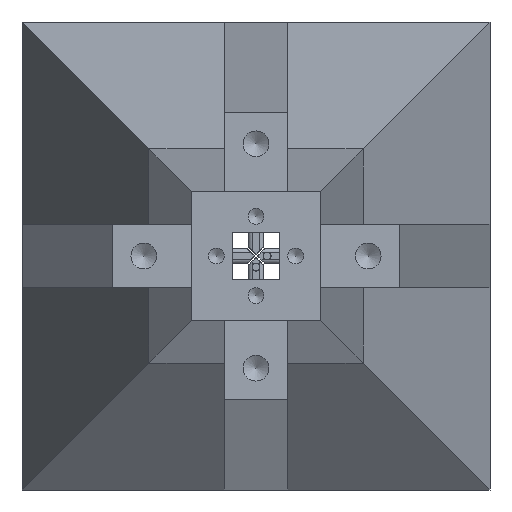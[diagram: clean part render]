
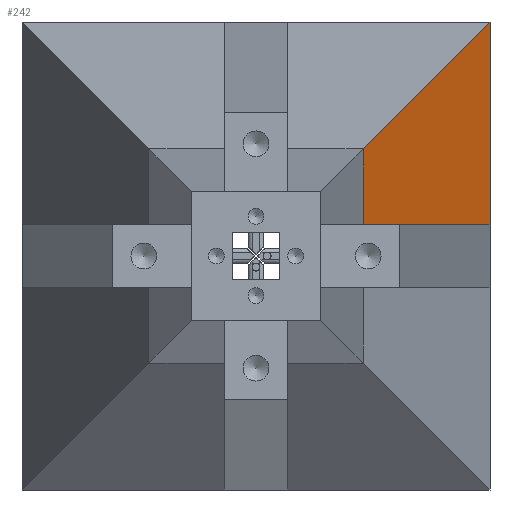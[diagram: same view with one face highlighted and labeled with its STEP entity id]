
A CAD part, left-side view. The second image highlights one B-rep face of the part: STEP entity #242.
In plain terms, the highlighted planar face has unit normal (-0.383, -0.924, 0).
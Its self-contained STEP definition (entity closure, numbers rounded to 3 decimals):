
#242=ADVANCED_FACE('',(#1664),#1666,.T.);
#1664=FACE_BOUND('',#1665,.T.);
#1665=EDGE_LOOP('',(#8910,#8911,#8912,#8913));
#1666=PLANE('',#1667);
#1667=AXIS2_PLACEMENT_3D('',#1668,#1669,#1670);
#1668=CARTESIAN_POINT('',(98.3,-21.5,0.));
#1669=DIRECTION('',(-0.383,-0.924,0.));
#1670=DIRECTION('',(0.,0.,-1.));
#8910=ORIENTED_EDGE('',*,*,#9550,.F.);
#8911=ORIENTED_EDGE('',*,*,#9609,.T.);
#8912=ORIENTED_EDGE('',*,*,#9610,.T.);
#8913=ORIENTED_EDGE('',*,*,#9551,.F.);
#9550=EDGE_CURVE('',#9938,#9936,#9940,.T.);
#9551=EDGE_CURVE('',#9936,#9941,#9942,.F.);
#9609=EDGE_CURVE('',#9938,#10046,#10047,.T.);
#9610=EDGE_CURVE('',#10046,#9941,#10048,.T.);
#9936=VERTEX_POINT('',#10718);
#9938=VERTEX_POINT('',#10722);
#9940=LINE('',#10726,#10727);
#9941=VERTEX_POINT('',#10729);
#9942=LINE('',#10730,#10731);
#10046=VERTEX_POINT('',#11018);
#10047=LINE('',#11019,#11020);
#10048=LINE('',#11022,#11023);
#10718=CARTESIAN_POINT('',(79.,-13.5,4.));
#10722=CARTESIAN_POINT('',(117.6,-29.5,4.));
#10726=CARTESIAN_POINT('',(117.6,-29.5,4.));
#10727=VECTOR('',#10728,1.);
#10728=DIRECTION('',(-0.924,0.383,0.));
#10729=CARTESIAN_POINT('',(79.,-13.5,13.5));
#10730=CARTESIAN_POINT('',(79.,-13.5,13.5));
#10731=VECTOR('',#10732,1.);
#10732=DIRECTION('',(0.,0.,-1.));
#11018=CARTESIAN_POINT('',(117.6,-29.5,29.5));
#11019=CARTESIAN_POINT('',(117.6,-29.5,4.));
#11020=VECTOR('',#11021,1.);
#11021=DIRECTION('',(0.,0.,1.));
#11022=CARTESIAN_POINT('',(117.6,-29.5,29.5));
#11023=VECTOR('',#11024,1.);
#11024=DIRECTION('',(-0.863,0.358,-0.358));
